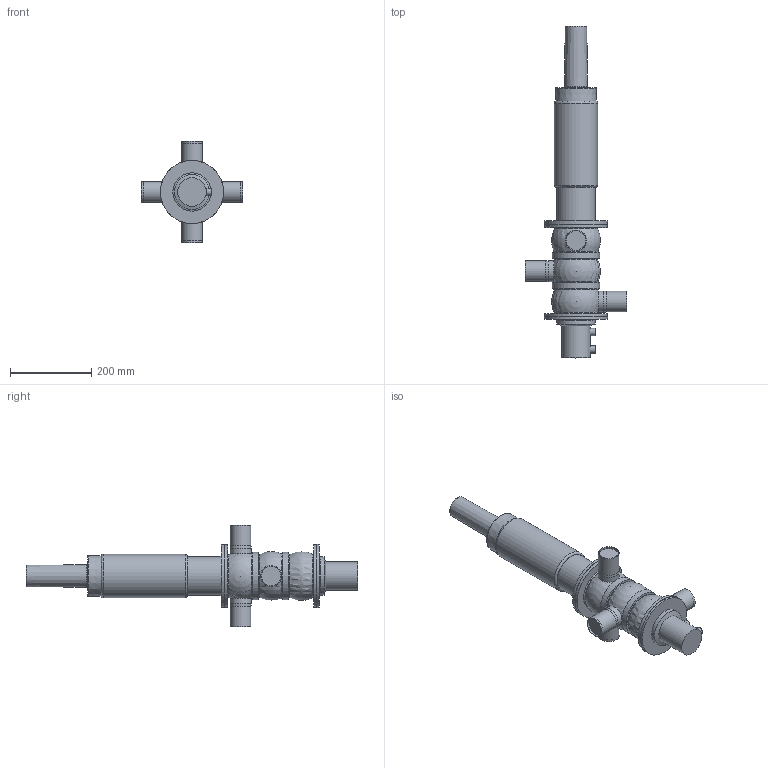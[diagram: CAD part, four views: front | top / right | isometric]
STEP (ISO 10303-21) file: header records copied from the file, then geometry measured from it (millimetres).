
FILE_DESCRIPTION(/* description */ ('Creo Elements/Direct Modeling STEP Export'),/* implementation_level */ '2;1');
FILE_NAME(/* name */ 'O:\Benutzer\Trimpop\DU4 SL\Makros\DU4 SL_VSM_stp\DU46(1-7-10-12)-2inch SL_VSM.stp',/* time_stamp */ '2021-10-04T12:29:31+02:00',/* author */ ('KERAMN'),/* organization */ (''),/* preprocessor_version */ 'ST-DEVELOPER v18.1',/* originating_system */ 'Autodesk Inventor 2020',/* authorisation */ '');
FILE_SCHEMA (('AUTOMOTIVE_DESIGN { 1 0 10303 214 3 1 1 }'));
Length unit declared in the file: millimetre
Products named in the file (6): DU46(1-7-10-12)-2inch SL_VSM; actuator_D4SL-100_yoke; DU46-2T(1-7-10-12)_Shrinkwrap_1; lid housing DU4-62 simplified; drain_pipe_62; D4_Prox._holder
Assembly tree (5 placements, depth 2):
  DU46(1-7-10-12)-2inch SL_VSM
    actuator_D4SL-100_yoke
    DU46-2T(1-7-10-12)_Shrinkwrap_1
    lid housing DU4-62 simplified
    drain_pipe_62
    D4_Prox._holder
Bounding box: 250 x 816.35 x 250 mm (x, y, z)
Volume: 6958913.4 mm3; surface area: 477651.2 mm2
Topology: 5 solids, 5 shells, 89 faces, 211 edges, 155 vertices
Faces by surface type: plane 36, cylinder 35, torus 7, cone 4, bspline 4, sphere 3
Full cylindrical faces by diameter (mm): 18 x2, 47.6 x4, 50.8 x4, 51.8 x4, 60 x1, 68 x1, 70 x1, 82.9 x1, 85 x1, 85.1 x1, 94 x1, 96 x1, 105.8 x3, 107 x1, 108.3 x3, 117 x2, 155 x4
Entity records: 3161 total; most frequent: CARTESIAN_POINT 729, DIRECTION 553, ORIENTED_EDGE 410, AXIS2_PLACEMENT_3D 256, EDGE_CURVE 205, CIRCLE 159, VERTEX_POINT 155, EDGE_LOOP 118
